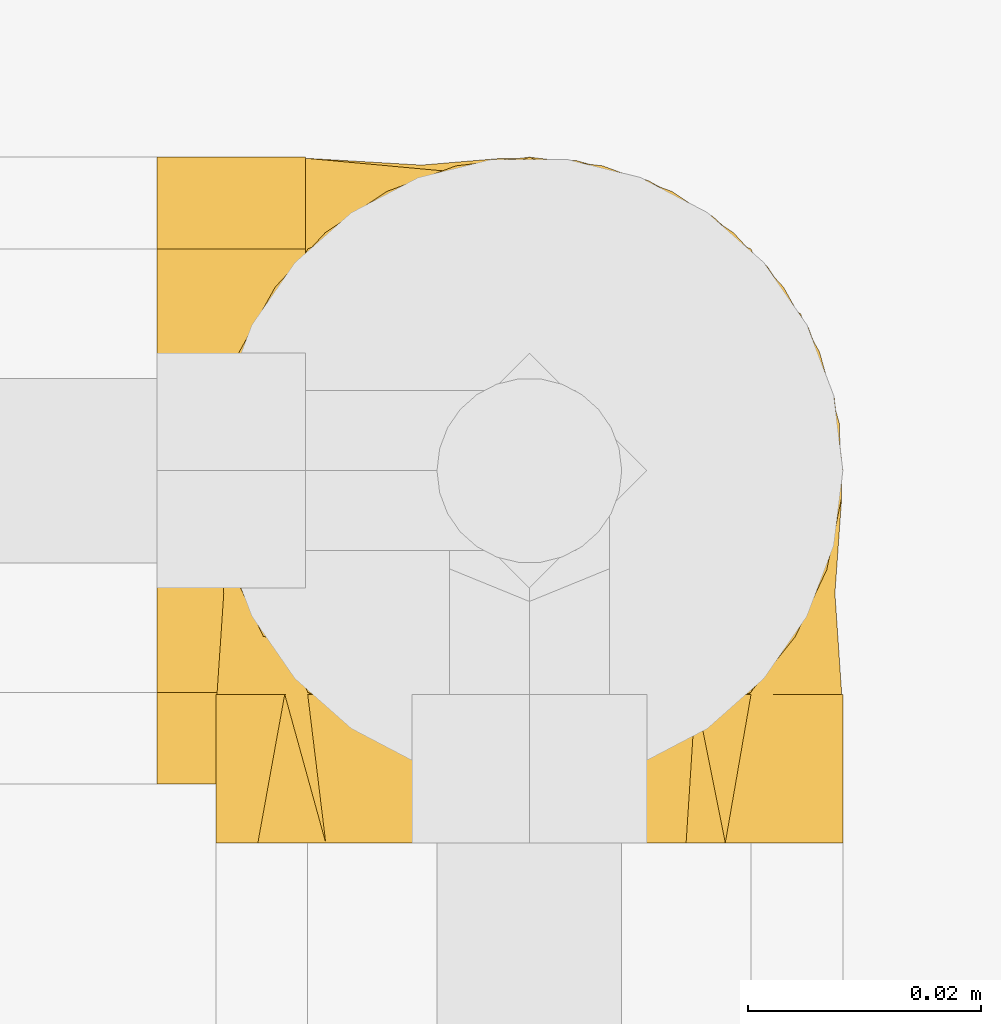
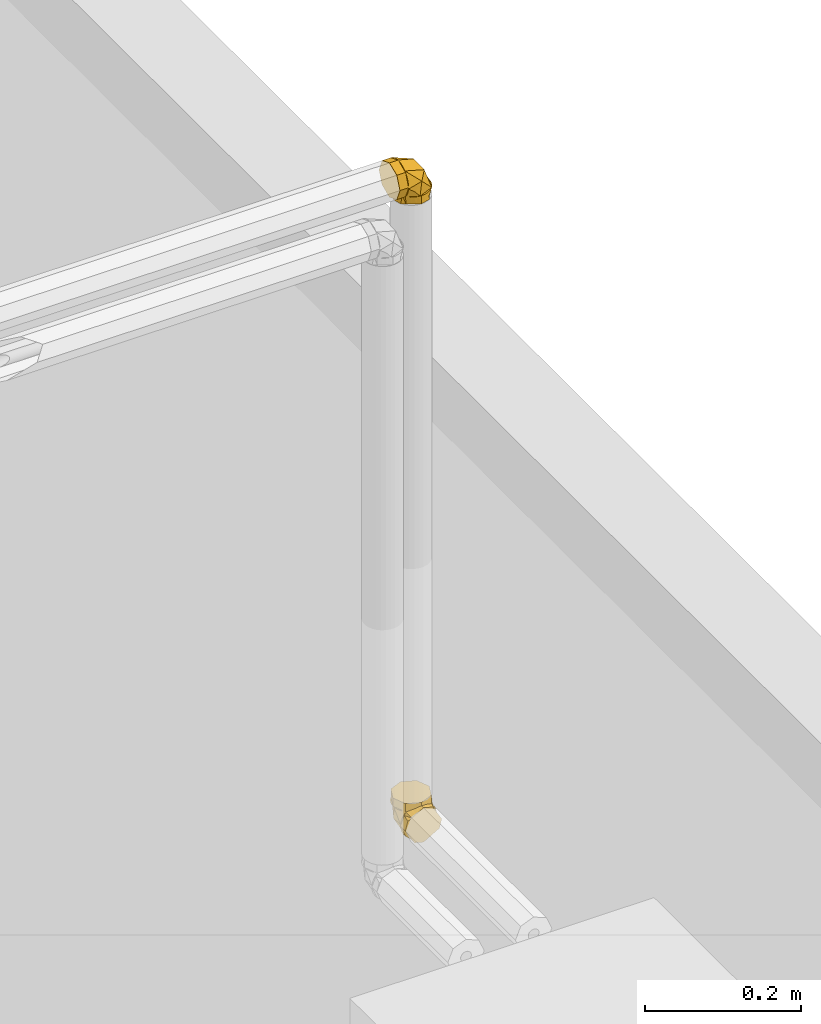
# One storey, part 360 of 652: 2 coverings.
"""IFC2X3 building model written with IfcOpenShell, lengths in millimetres."""

from ifc_helpers import new_model, entity, si_unit, converted_unit, direction, frame, origin, place, context, subcontext, project, spatial, face_set, surface_model, material, type_object, element, save


model = new_model("IFC2X3")

# Units and contexts
model_context = context("Model", 3, precision=0.01, world=frame((0.0, 0.0, 308426.39999999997)), true_north=direction((6.123233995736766e-17, 1.0)))
plan_context = context("Plan", 3, precision=0.01, world=frame((0.0, 0.0, 308426.39999999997)), true_north=direction((6.123233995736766e-17, 1.0)))
body_context = subcontext(model_context, "Body", "Model", "MODEL_VIEW")
ifc_project = project(units=[si_unit("LENGTHUNIT", "METRE", prefix="MILLI"), si_unit("AREAUNIT", "SQUARE_METRE"), si_unit("VOLUMEUNIT", "CUBIC_METRE"), converted_unit("PLANEANGLEUNIT", "DEGREE", entity("IfcPlaneAngleMeasure", 0.017453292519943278), si_unit("PLANEANGLEUNIT", "RADIAN"), dimensions=[0, 0, 0, 0, 0, 0, 0])], contexts=[model_context, plan_context])

# Site, building, storey
site_placement = place(None, origin())
site = spatial("IfcSite", under=ifc_project, at=site_placement, Name="Default", CompositionType="ELEMENT")
building_placement = place(site_placement, origin())
building = spatial("IfcBuilding", under=site, at=building_placement, CompositionType="ELEMENT")
storey_placement = place(building_placement, frame((0.0, 0.0, 1730.6999999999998)))
storey = spatial("IfcBuildingStorey", under=building, at=storey_placement, Name="EG_Produktion_FFB", CompositionType="ELEMENT", Elevation=1730.6999999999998)

# Coverings
ifc_material = material(Name="Dämmung - Armaflex-Schlauch")
covering_type = type_object("IfcCoveringType", Name="Rohrdämmung außen:Armaflex-Schlauch", PredefinedType="INSULATION")
covering_1_placement = place(storey_placement, frame((66293.50701735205, 35021.46567746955, 3728.5327722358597)))
element("IfcCovering", 1, at=covering_1_placement, inside=storey, type_object=covering_type, material=ifc_material, Name="Rohrdämmung außen:Armaflex-Schlauch", ObjectType="Rohrdämmung außen:Armaflex-Schlauch", PredefinedType="INSULATION", context=body_context, shape_type="SurfaceModel", body=[
    surface_model("IfcFaceBasedSurfaceModel", [(12.766250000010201, 9.65642195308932, -47.75027223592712), (12.766250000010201, 5.678961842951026, -42.79223424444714), (12.766250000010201, 2.973980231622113, -37.040242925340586), (12.766250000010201, 1.6920879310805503, -30.814563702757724), (12.766250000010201, 1.9046594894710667, -24.461836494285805), (12.766250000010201, 3.5998591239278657, -18.335775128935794), (12.766250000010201, 6.683299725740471, -12.77747289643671), (12.766250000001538, 10.983298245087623, -8.096410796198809), (12.766250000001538, 16.26043484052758, -4.553225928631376), (12.766250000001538, 22.220883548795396, -2.3451994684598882), (12.766250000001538, 28.532772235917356, -1.595272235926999), (12.766250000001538, 34.84466092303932, -2.3451994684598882), (12.766250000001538, 40.80510963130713, -4.553225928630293), (12.766250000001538, 46.08224622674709, -8.096410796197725), (12.766250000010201, 50.38224474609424, -12.77747289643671), (12.766250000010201, 53.46568534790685, -18.33577512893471), (12.766250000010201, 55.16088498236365, -24.461836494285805), (12.766250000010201, 55.37345654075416, -30.814563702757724), (12.766250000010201, 54.0915642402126, -37.040242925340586), (12.766250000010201, 51.38658262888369, -42.79223424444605), (12.766250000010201, 47.40912251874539, -47.75027223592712), (17.72428799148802, 51.38658262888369, -47.75027223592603), (23.476279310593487, 54.0915642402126, -47.75027223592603), (29.701958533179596, 55.37345654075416, -47.75027223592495), (36.05468574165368, 55.16088498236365, -47.75027223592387), (42.18074710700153, 53.46568534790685, -47.75027223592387), (47.73904933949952, 50.38224474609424, -47.750272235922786), (52.420111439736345, 46.08224622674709, -47.750272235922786), (55.96329630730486, 40.80510963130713, -47.750272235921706), (58.17132276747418, 34.84466092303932, -47.750272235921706), (58.921250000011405, 28.532772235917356, -47.750272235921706), (58.17132276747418, 22.220883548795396, -47.750272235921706), (55.96329630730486, 16.26043484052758, -47.750272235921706), (52.420111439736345, 10.983298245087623, -47.750272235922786), (47.73904933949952, 6.683299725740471, -47.750272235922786), (42.18074710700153, 3.5998591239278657, -47.75027223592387), (36.05468574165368, 1.9046594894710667, -47.75027223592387), (29.701958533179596, 1.6920879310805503, -47.75027223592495), (23.476279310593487, 2.973980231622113, -47.75027223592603), (17.72428799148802, 5.678961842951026, -47.75027223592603), (22.710231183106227, 2.2755822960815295, -39.06942689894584), (35.84431321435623, 28.532119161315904, -7.778894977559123), (12.766652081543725, 6.338125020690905, -19.45550783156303), (33.56538255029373, 3.5987573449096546, -26.950980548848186), (43.183400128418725, 14.28415163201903, -18.67474153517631), (48.37843186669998, 28.532119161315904, -29.48629091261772), (41.06259934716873, 6.338125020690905, -47.75029237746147), (43.183400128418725, 42.780086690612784, -18.67474153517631), (33.56538255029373, 53.46548097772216, -26.950980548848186), (22.710231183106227, 54.78865602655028, -39.06942689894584), (41.06259934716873, 50.72843874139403, -47.75029237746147), (12.766652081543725, 50.72843874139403, -19.45550783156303), (0.0, 28.532772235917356, -1.5952722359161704), (0.0, 33.29469446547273, -3.567725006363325), (0.0, 38.05661669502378, -5.540177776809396), (0.0, 42.81853892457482, -7.51263054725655), (0.0, 47.5804611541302, -9.485083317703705), (0.0, 49.552913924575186, -14.247005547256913), (0.0, 51.5253666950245, -19.008927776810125), (0.0, 53.497819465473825, -23.770850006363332), (0.0, 55.47027223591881, -28.532772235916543), (0.0, 53.497819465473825, -33.29469446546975), (0.0, 51.5253666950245, -38.05661669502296), (0.0, 49.552913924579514, -42.818538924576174), (0.0, 47.5804611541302, -47.58046115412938), (0.0, 42.81853892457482, -49.552913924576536), (0.0, 38.05661669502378, -51.52536669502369), (0.0, 33.29469446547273, -53.49781946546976), (0.0, 28.532772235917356, -55.470272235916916), (0.0, 23.770850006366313, -53.49781946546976), (0.0, 19.008927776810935, -51.52536669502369), (0.0, 14.247005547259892, -49.552913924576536), (0.0, 9.485083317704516, -47.58046115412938), (0.0, 7.512630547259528, -42.818538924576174), (0.0, 5.540177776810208, -38.05661669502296), (0.0, 3.567725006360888, -33.29469446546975), (0.0, 1.5952722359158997, -28.532772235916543), (0.0, 3.5677250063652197, -23.770850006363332), (0.0, 5.540177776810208, -19.008927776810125), (0.0, 7.512630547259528, -14.247005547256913), (0.0, 9.485083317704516, -9.485083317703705), (0.0, 14.247005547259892, -7.51263054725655), (0.0, 19.008927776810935, -5.540177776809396), (0.0, 23.77085000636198, -3.567725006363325), (12.766250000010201, 28.532772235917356, -1.5952722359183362), (12.766250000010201, 23.770850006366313, -3.567725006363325), (12.766250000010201, 19.008927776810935, -5.540177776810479), (12.766250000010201, 14.24700554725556, -7.512630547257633), (12.766250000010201, 9.485083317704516, -9.48508331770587), (12.766250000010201, 7.095738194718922, -15.25347271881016), (12.766250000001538, 4.706393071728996, -21.021862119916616), (12.766250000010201, 1.5952722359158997, -28.53277223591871), (12.766250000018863, 3.567725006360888, -33.29469446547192), (12.766250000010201, 5.540177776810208, -38.05661669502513), (12.766250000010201, 7.512630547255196, -42.81853892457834), (12.766250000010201, 9.485083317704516, -47.58046115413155), (12.766250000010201, 15.253472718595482, -49.96980627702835), (12.766250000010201, 21.021862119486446, -52.35915139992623), (12.766250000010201, 28.532772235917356, -55.47027223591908), (12.766250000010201, 33.2946944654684, -53.49781946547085), (12.766250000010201, 38.05661669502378, -51.52536669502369), (12.766250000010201, 42.81853892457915, -49.552913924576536), (12.766250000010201, 47.5804611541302, -47.58046115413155), (12.766250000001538, 49.96980627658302, -41.81207175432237), (12.766250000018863, 52.35915139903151, -36.04368235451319), (12.766250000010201, 55.47027223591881, -28.53277223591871), (12.766250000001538, 53.497819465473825, -23.7708500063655), (12.766250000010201, 51.5253666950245, -19.00892777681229), (12.766250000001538, 49.552913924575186, -14.24700554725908), (12.766250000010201, 47.5804611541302, -9.48508331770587), (12.766250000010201, 41.81207177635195, -7.09573820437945), (12.766250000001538, 36.0436823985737, -4.7063930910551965), (58.921250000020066, 28.532772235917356, -60.51652223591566), (55.55406250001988, 22.700632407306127, -60.51652223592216), (52.186875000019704, 16.868492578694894, -60.51652223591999), (48.81968750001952, 11.036352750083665, -60.516522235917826), (45.452500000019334, 5.204212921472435, -60.51652223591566), (38.71812500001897, 3.3997425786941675, -60.51652223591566), (31.98375000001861, 1.5952722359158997, -60.51652223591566), (26.151610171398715, 4.962459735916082, -60.51652223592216), (20.319470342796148, 8.329647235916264, -60.51652223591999), (14.487330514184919, 11.696834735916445, -60.516522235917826), (8.65519068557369, 15.064022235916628, -60.51652223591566), (6.850720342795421, 21.79839723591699, -60.51652223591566), (5.046250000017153, 28.532772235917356, -60.51652223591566), (8.413437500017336, 34.36491206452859, -60.51652223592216), (11.780625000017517, 40.197051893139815, -60.51652223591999), (15.1478125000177, 46.02919172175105, -60.516522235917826), (18.51500000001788, 51.86133155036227, -60.51652223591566), (25.249375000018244, 53.66580189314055, -60.51652223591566), (31.98375000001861, 55.47027223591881, -60.51652223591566), (37.81588982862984, 52.10308473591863, -60.51652223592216), (43.64802965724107, 48.73589723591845, -60.51652223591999), (49.48016948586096, 45.368709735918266, -60.516522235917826), (55.312309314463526, 42.00152223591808, -60.51652223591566), (57.1167796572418, 35.26714723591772, -60.51652223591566), (58.921250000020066, 28.532772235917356, -47.75027223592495), (56.94879722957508, 33.2946944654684, -47.75027223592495), (54.97634445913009, 38.05661669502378, -47.75027223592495), (53.00389168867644, 42.81853892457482, -47.75027223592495), (51.03143891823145, 47.5804611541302, -47.75027223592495), (46.26951668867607, 49.552913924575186, -47.75027223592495), (41.50759445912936, 51.5253666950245, -47.75027223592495), (36.745672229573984, 53.497819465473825, -47.75027223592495), (31.98375000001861, 55.47027223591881, -47.75027223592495), (27.221827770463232, 53.497819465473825, -47.75027223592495), (22.459905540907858, 51.5253666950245, -47.75027223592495), (17.697983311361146, 49.552913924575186, -47.75027223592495), (12.93606108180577, 47.5804611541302, -47.75027223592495), (10.963608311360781, 42.81853892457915, -47.75027223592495), (8.99115554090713, 38.05661669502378, -47.75027223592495), (7.018702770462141, 33.29469446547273, -47.75027223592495), (5.046250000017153, 28.532772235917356, -47.75027223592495), (7.018702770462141, 23.770850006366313, -47.75027223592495), (8.99115554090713, 19.008927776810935, -47.75027223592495), (10.963608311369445, 14.247005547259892, -47.75027223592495), (12.93606108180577, 9.485083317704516, -47.75027223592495), (17.697983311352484, 7.512630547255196, -47.75027223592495), (22.459905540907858, 5.540177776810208, -47.75027223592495), (27.221827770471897, 3.567725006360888, -47.75027223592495), (31.98375000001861, 1.5952722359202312, -47.75027223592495), (36.745672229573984, 3.567725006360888, -47.75027223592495), (41.50759445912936, 5.540177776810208, -47.75027223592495), (46.26951668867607, 7.512630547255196, -47.75027223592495), (51.03143891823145, 9.485083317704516, -47.75027223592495), (53.0038916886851, 14.247005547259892, -47.75027223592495), (54.97634445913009, 19.008927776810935, -47.75027223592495), (56.948797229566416, 23.77085000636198, -47.75027223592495)], [face_set([[[0, 1, 2, 3, 4, 5, 6, 7, 8, 9, 10, 11, 12, 13, 14, 15, 16, 17, 18, 19]], [[20, 21, 22, 23, 24, 25, 26, 27, 28, 29, 30, 31, 32, 33, 34, 35, 36, 37, 38, 39]], [[0, 40, 3]], [[10, 7, 41]], [[42, 3, 43, 7]], [[40, 43, 3]], [[37, 40, 0]], [[7, 43, 44]], [[45, 41, 44]], [[7, 44, 41]], [[33, 30, 45]], [[45, 44, 33]], [[43, 33, 44]], [[43, 37, 46]], [[37, 43, 40]], [[46, 33, 43]], [[13, 10, 41]], [[27, 47, 45]], [[45, 30, 27]], [[48, 47, 27]], [[49, 48, 23]], [[48, 50, 23]], [[45, 47, 41]], [[20, 49, 23]], [[47, 48, 13]], [[17, 49, 20]], [[41, 47, 13]], [[48, 17, 51]], [[48, 27, 50]], [[17, 48, 49]], [[51, 13, 48]]]), face_set([[[52, 53, 54, 55, 56, 57, 58, 59, 60, 61, 62, 63, 64, 65, 66, 67, 68, 69, 70, 71, 72, 73, 74, 75, 76, 77, 78, 79, 80, 81, 82, 83]], [[84, 85, 86, 87, 88, 89, 90, 91, 92, 93, 94, 95, 96, 97, 98, 99, 100, 101, 102, 103, 104, 105, 106, 107, 108, 109, 110, 111]], [[111, 110, 109, 56, 55, 54, 53, 52, 84]], [[56, 109, 108, 107, 106, 105, 60, 59, 58, 57]], [[104, 103, 102, 64, 63, 62, 61, 60, 105]], [[64, 102, 101, 100, 99, 98, 68, 67, 66, 65]], [[97, 96, 95, 72, 71, 70, 69, 68, 98]], [[72, 95, 94, 93, 92, 91, 76, 75, 74, 73]], [[90, 89, 88, 80, 79, 78, 77, 76, 91]], [[80, 88, 87, 86, 85, 84, 52, 83, 82, 81]]]), face_set([[[112, 113, 114, 115, 116, 117, 118, 119, 120, 121, 122, 123, 124, 125, 126, 127, 128, 129, 130, 131, 132, 133, 134, 135]], [[136, 137, 138, 139, 140, 141, 142, 143, 144, 145, 146, 147, 148, 149, 150, 151, 152, 153, 154, 155, 156, 157, 158, 159, 160, 161, 162, 163, 164, 165, 166, 167]], [[155, 121, 156]], [[118, 159, 119]], [[159, 158, 119]], [[123, 154, 153]], [[153, 152, 124]], [[121, 155, 122]], [[120, 158, 157]], [[118, 160, 159]], [[158, 120, 119]], [[124, 123, 153]], [[157, 156, 121]], [[155, 154, 122]], [[123, 122, 154]], [[120, 157, 121]], [[163, 115, 164]], [[112, 167, 113]], [[167, 166, 113]], [[117, 162, 161]], [[161, 160, 118]], [[115, 163, 116]], [[114, 166, 165]], [[112, 136, 167]], [[166, 114, 113]], [[118, 117, 161]], [[165, 164, 115]], [[163, 162, 116]], [[117, 116, 162]], [[114, 165, 115]], [[139, 133, 140]], [[130, 143, 131]], [[143, 142, 131]], [[135, 138, 137]], [[137, 136, 112]], [[133, 139, 134]], [[132, 142, 141]], [[130, 144, 143]], [[142, 132, 131]], [[112, 135, 137]], [[141, 140, 133]], [[139, 138, 134]], [[135, 134, 138]], [[132, 141, 133]], [[147, 127, 148]], [[124, 151, 125]], [[151, 150, 125]], [[129, 146, 145]], [[145, 144, 130]], [[127, 147, 128]], [[126, 150, 149]], [[124, 152, 151]], [[150, 126, 125]], [[130, 129, 145]], [[149, 148, 127]], [[147, 146, 128]], [[129, 128, 146]], [[126, 149, 127]]])]),
])
covering_2_placement = place(storey_placement, frame((66296.95799511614, 35018.01469970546, 2671.467227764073)))
element("IfcCovering", 2, at=covering_2_placement, inside=storey, type_object=covering_type, material=ifc_material, Name="Rohrdämmung außen:Armaflex-Schlauch", ObjectType="Rohrdämmung außen:Armaflex-Schlauch", PredefinedType="INSULATION", context=body_context, shape_type="SurfaceModel", body=[
    surface_model("IfcFaceBasedSurfaceModel", [(47.409122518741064, 12.766249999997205, 47.750272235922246), (51.38658262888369, 17.724287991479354, 47.750272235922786), (54.0915642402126, 23.476279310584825, 47.750272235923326), (55.37345654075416, 29.701958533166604, 47.75027223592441), (55.16088498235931, 36.05468574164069, 47.75027223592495), (53.465685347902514, 42.180747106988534, 47.75027223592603), (50.38224474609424, 47.739049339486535, 47.75027223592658), (46.08224622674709, 52.420111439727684, 47.75027223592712), (40.8051096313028, 55.96329630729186, 47.75027223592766), (34.844660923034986, 58.17132276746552, 47.75027223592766), (28.532772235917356, 58.92124999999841, 47.75027223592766), (22.220883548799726, 58.17132276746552, 47.75027223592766), (16.26043484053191, 55.96329630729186, 47.75027223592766), (10.983298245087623, 52.420111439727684, 47.75027223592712), (6.683299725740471, 47.739049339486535, 47.75027223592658), (3.599859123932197, 42.180747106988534, 47.75027223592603), (1.904659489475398, 36.05468574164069, 47.75027223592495), (1.6920879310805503, 29.701958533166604, 47.75027223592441), (2.973980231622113, 23.476279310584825, 47.750272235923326), (5.678961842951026, 17.724287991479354, 47.750272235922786), (9.65642195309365, 12.766249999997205, 47.750272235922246), (5.678961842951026, 12.766249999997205, 42.79223424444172), (2.973980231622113, 12.766249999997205, 37.04024292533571), (1.6920879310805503, 12.766249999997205, 30.81456370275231), (1.904659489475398, 12.766250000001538, 24.46183649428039), (3.599859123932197, 12.766250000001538, 18.33577512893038), (6.683299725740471, 12.766250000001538, 12.777472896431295), (10.983298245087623, 12.766250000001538, 8.096410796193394), (16.26043484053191, 12.766250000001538, 4.553225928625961), (22.220883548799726, 12.766250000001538, 2.3451994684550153), (28.532772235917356, 12.766250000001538, 1.5952722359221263), (34.844660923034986, 12.766250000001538, 2.3451994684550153), (40.8051096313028, 12.766250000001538, 4.553225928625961), (46.08224622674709, 12.766250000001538, 8.096410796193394), (50.38224474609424, 12.766250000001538, 12.777472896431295), (53.465685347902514, 12.766250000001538, 18.33577512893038), (55.16088498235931, 12.766250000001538, 24.46183649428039), (55.37345654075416, 12.766249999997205, 30.81456370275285), (54.0915642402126, 12.766249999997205, 37.04024292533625), (51.38658262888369, 12.766249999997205, 42.79223424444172), (54.787317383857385, 21.446530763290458, 37.807400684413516), (28.533105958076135, 52.73764404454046, 24.672737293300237), (53.46646777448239, 33.564395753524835, 26.951086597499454), (50.727100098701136, 41.061612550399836, 47.75039842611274), (28.533105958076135, 31.029666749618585, 12.139781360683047), (42.77874804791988, 41.84063476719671, 17.332487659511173), (50.727100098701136, 12.765665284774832, 19.455613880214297), (14.287463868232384, 41.84063476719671, 17.332487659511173), (3.599744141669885, 33.564395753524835, 26.951086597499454), (2.274243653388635, 21.446530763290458, 37.807400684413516), (6.339111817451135, 12.765665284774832, 19.455613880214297), (6.339111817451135, 41.061612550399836, 47.75039842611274), (28.532772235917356, 58.92125000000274, 60.5165222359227), (23.77085000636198, 56.94879722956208, 60.51652223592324), (19.008927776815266, 54.97634445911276, 60.51652223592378), (14.247005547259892, 53.00389168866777, 60.51652223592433), (9.485083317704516, 51.031438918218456, 60.51652223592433), (7.512630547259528, 46.26951668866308, 60.51652223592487), (5.54017777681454, 41.507594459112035, 60.51652223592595), (3.567725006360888, 36.74567222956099, 60.51652223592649), (1.5952722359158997, 31.983750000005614, 60.516522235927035), (3.567725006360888, 27.22182777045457, 60.516522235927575), (5.54017777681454, 22.459905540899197, 60.516522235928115), (7.512630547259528, 17.69798331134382, 60.516522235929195), (9.485083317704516, 12.936061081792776, 60.51652223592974), (14.247005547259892, 10.963608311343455, 60.51652223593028), (19.008927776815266, 8.991155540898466, 60.51652223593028), (23.77085000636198, 7.018702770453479, 60.51652223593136), (28.532772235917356, 5.046250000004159, 60.51652223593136), (33.29469446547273, 7.018702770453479, 60.51652223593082), (38.05661669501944, 8.991155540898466, 60.51652223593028), (42.81853892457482, 10.963608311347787, 60.51652223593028), (47.5804611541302, 12.936061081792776, 60.51652223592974), (49.55291392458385, 17.69798331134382, 60.516522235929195), (51.525366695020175, 22.459905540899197, 60.516522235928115), (53.49781946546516, 27.22182777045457, 60.516522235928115), (55.47027223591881, 31.983750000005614, 60.516522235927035), (53.497819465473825, 36.74567222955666, 60.51652223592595), (51.525366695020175, 41.507594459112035, 60.51652223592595), (49.552913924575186, 46.26951668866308, 60.51652223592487), (47.5804611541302, 51.031438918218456, 60.51652223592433), (42.81853892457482, 53.00389168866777, 60.51652223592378), (38.05661669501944, 54.97634445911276, 60.51652223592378), (33.29469446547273, 56.94879722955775, 60.51652223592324), (28.532772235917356, 58.92125000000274, 47.75027223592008), (33.29469446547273, 56.94879722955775, 47.75027223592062), (38.05661669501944, 54.97634445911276, 47.750272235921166), (42.81853892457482, 53.003891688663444, 47.750272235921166), (47.5804611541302, 51.031438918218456, 47.750272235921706), (49.96980627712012, 45.263049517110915, 47.750272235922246), (52.35915140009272, 39.49466011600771, 47.750272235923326), (55.47027223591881, 31.983750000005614, 47.75027223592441), (53.497819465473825, 27.22182777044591, 47.75027223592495), (51.525366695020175, 22.459905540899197, 47.75027223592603), (49.552913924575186, 17.697983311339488, 47.75027223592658), (47.5804611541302, 12.936061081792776, 47.75027223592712), (41.81207175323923, 10.546715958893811, 47.75027223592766), (36.04368235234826, 8.157370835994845, 47.75027223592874), (28.532772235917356, 5.046250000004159, 47.75027223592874), (23.770850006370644, 7.018702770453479, 47.7502722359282), (19.008927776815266, 8.991155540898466, 47.7502722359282), (14.247005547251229, 10.963608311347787, 47.7502722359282), (9.485083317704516, 12.936061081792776, 47.75027223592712), (7.095738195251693, 18.704450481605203, 47.75027223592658), (4.706393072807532, 24.472839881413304, 47.75027223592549), (1.5952722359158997, 31.983750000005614, 47.75027223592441), (3.567725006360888, 36.74567222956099, 47.75027223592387), (5.54017777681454, 41.507594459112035, 47.750272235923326), (7.512630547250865, 46.26951668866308, 47.750272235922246), (9.485083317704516, 51.031438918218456, 47.750272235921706), (15.253472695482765, 53.420784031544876, 47.750272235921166), (21.021862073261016, 55.81012914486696, 47.750272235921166), (28.532772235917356, 0.0, 1.5952722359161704), (34.36491206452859, 0.0, 4.962459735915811), (40.197051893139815, 0.0, 8.329647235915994), (46.02919172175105, 0.0, 11.696834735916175), (51.86133155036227, 0.0, 15.064022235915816), (53.66580189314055, 0.0, 21.798397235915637), (55.47027223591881, 0.0, 28.532772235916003), (52.10308473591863, 0.0, 34.36491206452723), (48.73589723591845, 0.0, 40.19705189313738), (45.368709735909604, 0.0, 46.02919172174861), (42.00152223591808, 0.0, 51.861331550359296), (35.26714723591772, 0.0, 53.66580189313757), (28.532772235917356, 0.0, 55.470272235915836), (22.700632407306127, 0.0, 52.10308473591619), (16.868492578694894, 0.0, 48.73589723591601), (11.036352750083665, 0.0, 45.36870973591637), (5.204212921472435, 0.0, 42.00152223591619), (3.3997425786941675, 0.0, 35.26714723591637), (1.5952722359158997, 0.0, 28.532772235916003), (4.962459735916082, 0.0, 22.700632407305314), (8.329647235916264, 0.0, 16.868492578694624), (11.696834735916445, 0.0, 11.036352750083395), (15.064022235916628, 0.0, 5.204212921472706), (21.79839723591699, 0.0, 3.3997425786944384), (28.532772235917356, 12.766249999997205, 1.5952722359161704), (23.770850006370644, 12.766249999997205, 3.567725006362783), (19.008927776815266, 12.766249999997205, 5.540177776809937), (14.247005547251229, 12.766249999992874, 7.512630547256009), (9.485083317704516, 12.766249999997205, 9.485083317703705), (7.512630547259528, 12.766249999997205, 14.247005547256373), (5.54017777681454, 12.766249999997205, 19.008927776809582), (3.567725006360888, 12.766249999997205, 23.770850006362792), (1.5952722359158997, 12.766249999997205, 28.532772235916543), (3.567725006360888, 12.766249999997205, 33.29469446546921), (5.54017777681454, 12.766249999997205, 38.05661669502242), (7.512630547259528, 12.766249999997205, 42.818538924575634), (9.485083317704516, 12.766249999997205, 47.58046115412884), (14.247005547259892, 12.766249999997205, 49.552913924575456), (19.008927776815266, 12.766249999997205, 51.525366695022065), (23.77085000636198, 12.766249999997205, 53.49781946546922), (28.532772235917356, 12.766249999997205, 55.470272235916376), (33.29469446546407, 12.766249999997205, 53.49781946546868), (38.05661669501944, 12.766249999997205, 51.525366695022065), (42.81853892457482, 12.766250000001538, 49.552913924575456), (47.5804611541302, 12.766249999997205, 47.58046115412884), (49.552913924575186, 12.766249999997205, 42.818538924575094), (51.525366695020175, 12.766249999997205, 38.05661669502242), (53.497819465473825, 12.766250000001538, 33.29469446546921), (55.47027223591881, 12.766249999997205, 28.532772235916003), (53.497819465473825, 12.766249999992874, 23.770850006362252), (51.525366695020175, 12.766249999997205, 19.008927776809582), (49.552913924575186, 12.766249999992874, 14.247005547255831), (47.5804611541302, 12.766249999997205, 9.485083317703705), (42.81853892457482, 12.766249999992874, 7.512630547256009), (38.05661669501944, 12.766249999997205, 5.540177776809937), (33.29469446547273, 12.766249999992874, 3.5677250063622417)], [face_set([[[0, 1, 2, 3, 4, 5, 6, 7, 8, 9, 10, 11, 12, 13, 14, 15, 16, 17, 18, 19]], [[20, 21, 22, 23, 24, 25, 26, 27, 28, 29, 30, 31, 32, 33, 34, 35, 36, 37, 38, 39]], [[0, 40, 3]], [[10, 7, 41]], [[37, 42, 40]], [[42, 7, 43]], [[37, 40, 0]], [[3, 40, 42]], [[44, 41, 45]], [[7, 45, 41]], [[33, 30, 44]], [[44, 45, 33]], [[42, 33, 45]], [[42, 37, 46]], [[7, 42, 45]], [[43, 3, 42]], [[46, 33, 42]], [[13, 10, 41]], [[27, 47, 44]], [[44, 30, 27]], [[48, 47, 27]], [[49, 48, 23]], [[48, 50, 23]], [[44, 47, 41]], [[20, 49, 23]], [[47, 48, 13]], [[17, 49, 20]], [[41, 47, 13]], [[48, 17, 51]], [[48, 27, 50]], [[17, 48, 49]], [[51, 13, 48]]]), face_set([[[52, 53, 54, 55, 56, 57, 58, 59, 60, 61, 62, 63, 64, 65, 66, 67, 68, 69, 70, 71, 72, 73, 74, 75, 76, 77, 78, 79, 80, 81, 82, 83]], [[84, 85, 86, 87, 88, 89, 90, 91, 92, 93, 94, 95, 96, 97, 98, 99, 100, 101, 102, 103, 104, 105, 106, 107, 108, 109, 110, 111]], [[111, 110, 109, 56, 55, 54, 53, 52, 84]], [[56, 109, 108, 107, 106, 105, 60, 59, 58, 57]], [[104, 103, 102, 64, 63, 62, 61, 60, 105]], [[64, 102, 101, 100, 99, 98, 68, 67, 66, 65]], [[97, 96, 95, 72, 71, 70, 69, 68, 98]], [[72, 95, 94, 93, 92, 91, 76, 75, 74, 73]], [[90, 89, 88, 80, 79, 78, 77, 76, 91]], [[80, 88, 87, 86, 85, 84, 52, 83, 82, 81]]]), face_set([[[112, 113, 114, 115, 116, 117, 118, 119, 120, 121, 122, 123, 124, 125, 126, 127, 128, 129, 130, 131, 132, 133, 134, 135]], [[136, 137, 138, 139, 140, 141, 142, 143, 144, 145, 146, 147, 148, 149, 150, 151, 152, 153, 154, 155, 156, 157, 158, 159, 160, 161, 162, 163, 164, 165, 166, 167]], [[155, 121, 156]], [[118, 159, 119]], [[159, 158, 119]], [[123, 154, 153]], [[153, 152, 124]], [[121, 155, 122]], [[120, 158, 157]], [[118, 160, 159]], [[158, 120, 119]], [[124, 123, 153]], [[157, 156, 121]], [[155, 154, 122]], [[123, 122, 154]], [[120, 157, 121]], [[163, 115, 164]], [[112, 167, 113]], [[167, 166, 113]], [[117, 162, 161]], [[161, 160, 118]], [[115, 163, 116]], [[114, 166, 165]], [[112, 136, 167]], [[166, 114, 113]], [[118, 117, 161]], [[165, 164, 115]], [[163, 162, 116]], [[117, 116, 162]], [[114, 165, 115]], [[139, 133, 140]], [[130, 143, 131]], [[143, 142, 131]], [[135, 138, 137]], [[137, 136, 112]], [[133, 139, 134]], [[132, 142, 141]], [[130, 144, 143]], [[142, 132, 131]], [[112, 135, 137]], [[141, 140, 133]], [[139, 138, 134]], [[135, 134, 138]], [[132, 141, 133]], [[147, 127, 148]], [[124, 151, 125]], [[151, 150, 125]], [[129, 146, 145]], [[145, 144, 130]], [[127, 147, 128]], [[126, 150, 149]], [[124, 152, 151]], [[150, 126, 125]], [[130, 129, 145]], [[149, 148, 127]], [[147, 146, 128]], [[129, 128, 146]], [[126, 149, 127]]])]),
])

save(model, "model.ifc")
